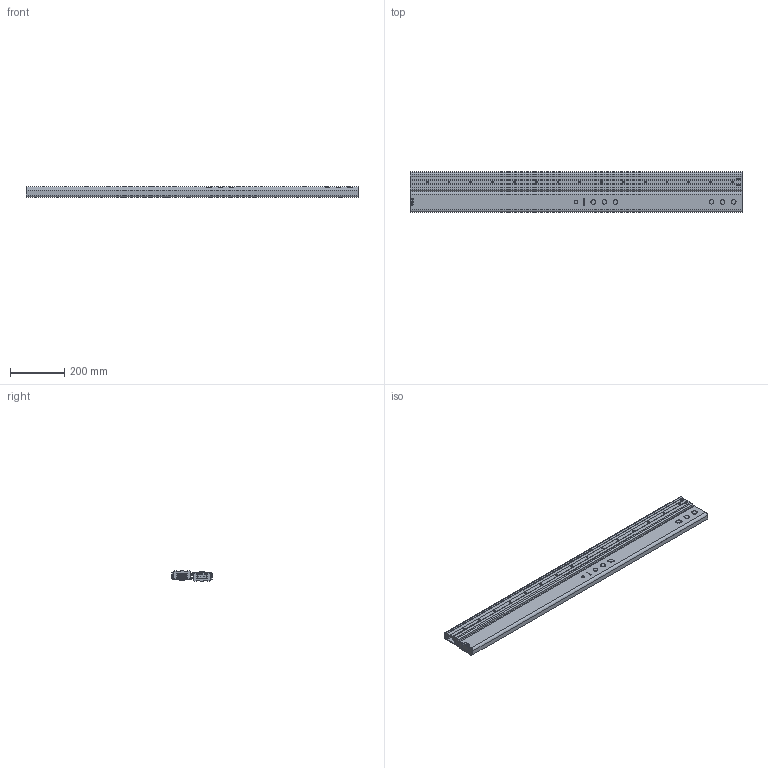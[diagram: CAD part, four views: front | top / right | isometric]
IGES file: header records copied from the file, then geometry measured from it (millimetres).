
Start section: Data from XPlus IGES,  Spatial Corp. Copyright (c) 1999-2004
Global section: file name: rd65_0048_r.igs; native system:  By Spatial Corp.; preprocessor: XPlus ACIS/IGES 3.0; author: Noname; organization: Noname; date: 20100218.234137; units: inch
Bounding box: 1219.2 x 149.11 x 37.08 mm (x, y, z)
Surface area: 1119589.1 mm2 (no closed solid volume)
Topology: 0 solids, 0 shells, 836 faces, 3744 edges, 3744 vertices
Faces by surface type: revolution 536, extrusion 300
